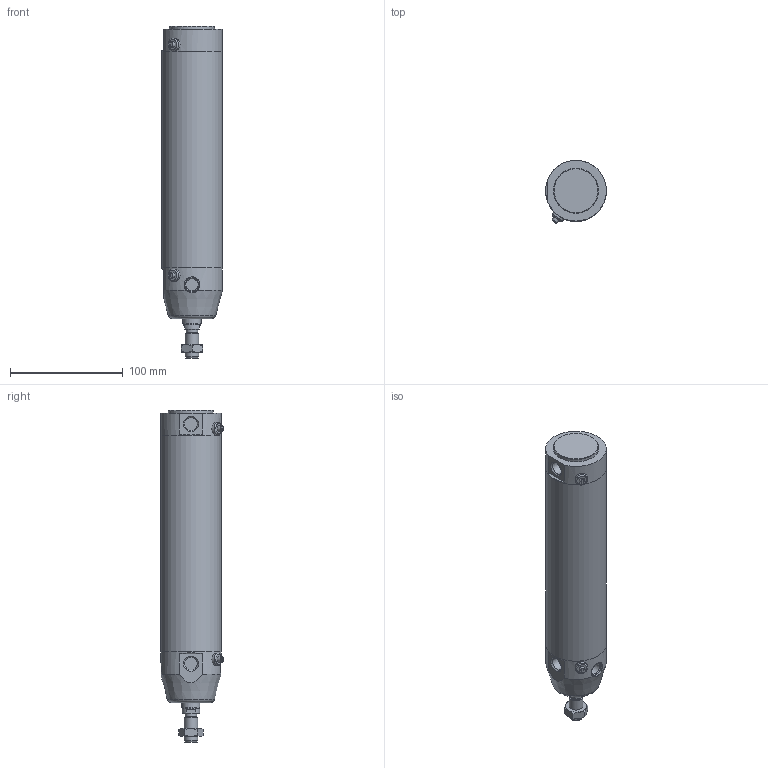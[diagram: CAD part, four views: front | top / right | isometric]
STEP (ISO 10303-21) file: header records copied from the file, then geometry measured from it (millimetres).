
FILE_DESCRIPTION(/* description */ (''),/* implementation_level */ '2;1');
FILE_NAME(/* name */ 'I:\Area Tecnica\Documenti\A-Manieri\_Inventor\12X\12X#E_###_####_#_#\12XBE_050_0150_#_#.stp',/* time_stamp */ '2015-05-08T13:58:01+02:00',/* author */ ('maniean1'),/* organization */ ('Pneumax S.p.A.'),/* preprocessor_version */ 'ST-DEVELOPER v15.2',/* originating_system */ 'Autodesk Inventor 2014',/* authorisation */ '');
FILE_SCHEMA (('AUTOMOTIVE_DESIGN { 1 0 10303 214 3 1 1 }'));
Length unit declared in the file: millimetre
Products named in the file (6): C1250_619-0150; 12X50_623; S12X50_0150; 12X_50_11; 12X50_612; 12XBE_050_0150_#_#
Bounding box: 54 x 55.88 x 295 mm (x, y, z)
Volume: 318578.2 mm3; surface area: 108449.3 mm2
Topology: 5 solids, 5 shells, 83 faces, 174 edges, 112 vertices
Faces by surface type: plane 45, cylinder 22, cone 13, torus 3
Full cylindrical faces by diameter (mm): 5 x2, 10.2 x1, 10.9 x2, 11 x2, 11.4 x2, 12 x2, 14 x1, 14.1 x2, 15.6 x1, 16 x1, 40 x1, 50 x2, 54 x3
Entity records: 2203 total; most frequent: CARTESIAN_POINT 508, DIRECTION 359, ORIENTED_EDGE 254, AXIS2_PLACEMENT_3D 161, EDGE_LOOP 136, EDGE_CURVE 127, VERTEX_POINT 101, ADVANCED_FACE 83
